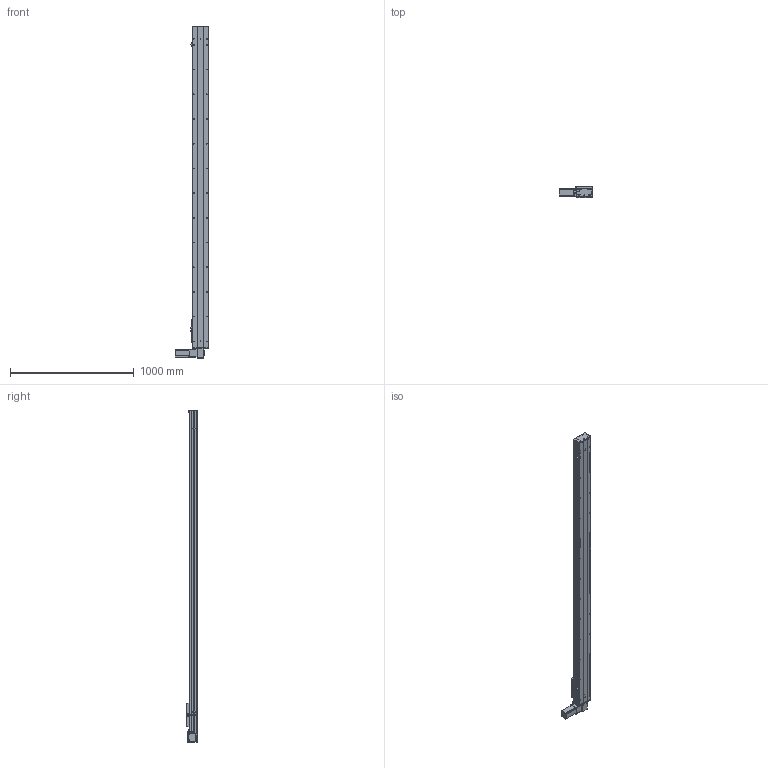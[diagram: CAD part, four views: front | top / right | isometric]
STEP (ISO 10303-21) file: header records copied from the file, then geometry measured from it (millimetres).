
FILE_DESCRIPTION (( 'STEP AP203' ), '1' );
FILE_NAME ('Y135CB-D90-S2300-BD-P400W.STEP', '2020-02-19T06:11:09', ( '微软用户' ), ( '微软中国' ), 'SwSTEP 2.0', 'SolidWorks 2017', '' );
FILE_SCHEMA (( 'CONFIG_CONTROL_DESIGN' ));
Length unit declared in the file: millimetre
Products named in the file (16): 5C--俋欶; 0B-埴倛裔啣; C-雄赽釱--; 0B-源倛裔啣; Y10B--々湍喘謫眊--666; san松下电机400不带刹车----; Y135CB-耜裔; 0B-薊粣ん眊; 5CB --掛极耜裔啣-; Y135CB-D90-S2300-BD-P400W; 135CB---遴掛极.-; C-詩湍揤踡え-陔; 35CB---喘謫眊楊擘啣; 135CB--詩湍-CE; Y100-135俋离換覜ん--; Y135C-陔俋离換覜結え-
Assembly tree (19 placements, depth 2):
  Y135CB-D90-S2300-BD-P400W
    Y135CB-耜裔
    135CB---遴掛极.-
    35CB---喘謫眊楊擘啣
    0B-埴倛裔啣
    0B-源倛裔啣
    san松下电机400不带刹车----
    5CB --掛极耜裔啣-  x2
    C-詩湍揤踡え-陔  x2
    135CB--詩湍-CE
    Y100-135俋离換覜ん--  x3
    Y135C-陔俋离換覜結え-
    5C--俋欶
    C-雄赽釱--
    Y10B--々湍喘謫眊--666
    0B-薊粣ん眊
Bounding box: 272 x 91 x 2688 mm (x, y, z)
Volume: 7762663.1 mm3; surface area: 3027828.2 mm2
Topology: 19 solids, 19 shells, 883 faces, 2392 edges, 1584 vertices
Faces by surface type: cylinder 452, plane 415, cone 16
Entity records: 27420 total; most frequent: DIRECTION 4572, CARTESIAN_POINT 4555, ORIENTED_EDGE 4260, EDGE_CURVE 2130, AXIS2_PLACEMENT_3D 1685, VERTEX_POINT 1412, LINE 1202, VECTOR 1202
